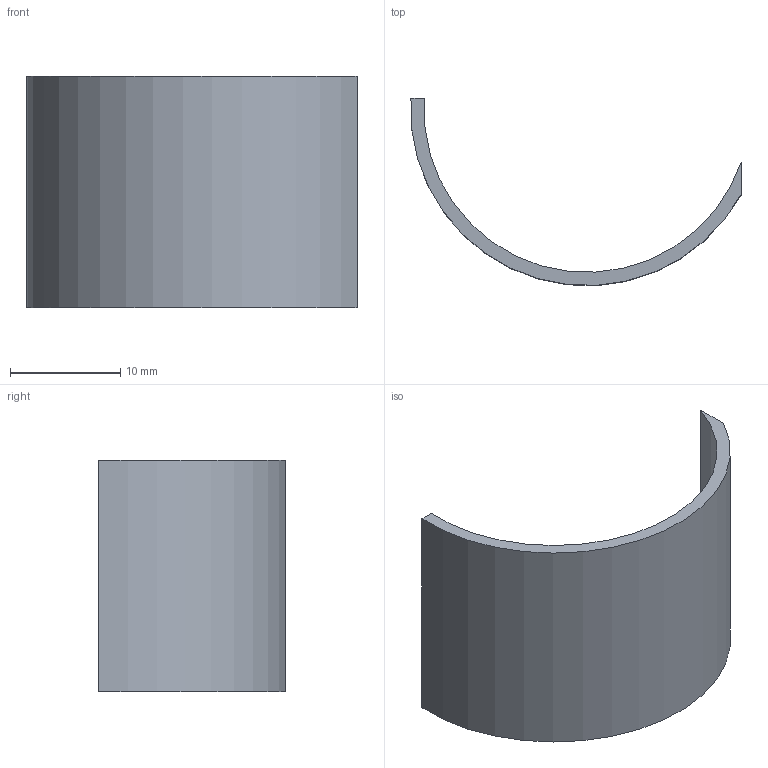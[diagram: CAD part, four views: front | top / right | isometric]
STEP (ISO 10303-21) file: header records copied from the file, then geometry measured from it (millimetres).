
FILE_DESCRIPTION(('Open CASCADE Model'),'2;1');
FILE_NAME('Open CASCADE Shape Model','2026-11-18T22:15:56',('Author'),( 'Open CASCADE'),'Open CASCADE STEP processor 7.8','Open CASCADE 7.8' ,'Unknown');
FILE_SCHEMA(('AUTOMOTIVE_DESIGN { 1 0 10303 214 1 1 1 1 }'));
Length unit declared in the file: millimetre
Products named in the file (1): Open CASCADE STEP translator 7.8 4
Bounding box: 29.97 x 16.98 x 21 mm (x, y, z)
Volume: 1078.7 mm3; surface area: 1991.4 mm2
Topology: 1 solids, 1 shells, 6 faces, 12 edges, 8 vertices
Faces by surface type: plane 4, cylinder 2
Entity records: 316 total; most frequent: CARTESIAN_POINT 79, DIRECTION 36, ORIENTED_EDGE 24, PCURVE 24, DEFINITIONAL_REPRESENTATION 24, B_SPLINE_CURVE_WITH_KNOTS 16, EDGE_CURVE 12, SURFACE_CURVE 12
